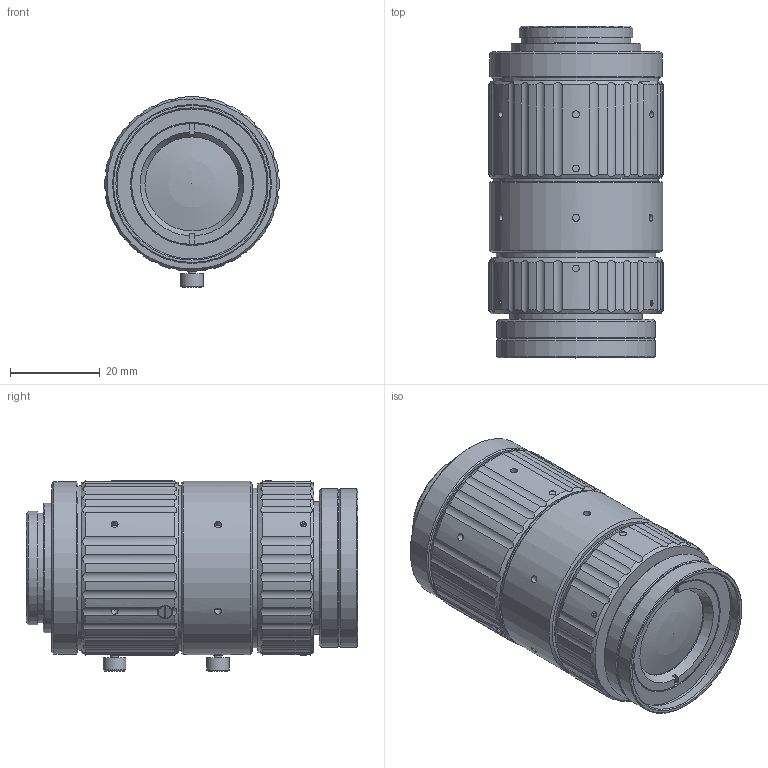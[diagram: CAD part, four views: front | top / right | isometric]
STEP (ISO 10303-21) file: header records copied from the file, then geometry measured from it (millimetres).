
FILE_DESCRIPTION(/* description */ ('Unknown'),/* implementation_level */ '2;1');
FILE_NAME(/* name */ 'F2524-MPT_210401',/* time_stamp */ '2021-04-01T10:15:24+09:00',/* author */ ('Unknown'),/* organization */ ('Unknown'),/* preprocessor_version */ 'ST-DEVELOPER v16.7',/* originating_system */ 'DEX',/* authorisation */ $);
FILE_SCHEMA (('AUTOMOTIVE_DESIGN {1 0 10303 214 3 1 1}'));
Length unit declared in the file: millimetre
Products named in the file (3): F2524-MPT_210401; F2524-MPT_Infinity; F2524-MPT_Mechanical limit
Assembly tree (2 placements, depth 2):
  F2524-MPT_210401
    F2524-MPT_Infinity
    F2524-MPT_Mechanical limit
Bounding box: 39 x 74.12 x 42.61 mm (x, y, z)
Surface area: 29532.5 mm2
Topology: 2 solids, 8 shells, 731 faces, 1826 edges, 1215 vertices
Faces by surface type: cylinder 360, plane 304, cone 53, torus 10, sphere 4
Full cylindrical faces by diameter (mm): 1.321 x12, 1.5 x4, 1.567 x20, 1.7 x12, 1.8 x6, 2 x2, 2.5 x8, 2.8 x2, 3 x8, 3.4 x2, 4.999 x4, 18.8 x2, 21 x2, 22.999 x2, 24.536 x2, 25.399 x2, 28.999 x2, 29.599 x2, 33.5 x2, 34 x2, 34.819 x2, 35.5 x2, 35.599 x2, 35.899 x2, 36.699 x4, 37.299 x4, 38.499 x2, 38.699 x2
Entity records: 26718 total; most frequent: CARTESIAN_POINT 5314, DIRECTION 3264, ORIENTED_EDGE 3130, EDGE_CURVE 1565, AXIS2_PLACEMENT_3D 1241, VERTEX_POINT 1135, EDGE_LOOP 1032, FACE_BOUND 1032
